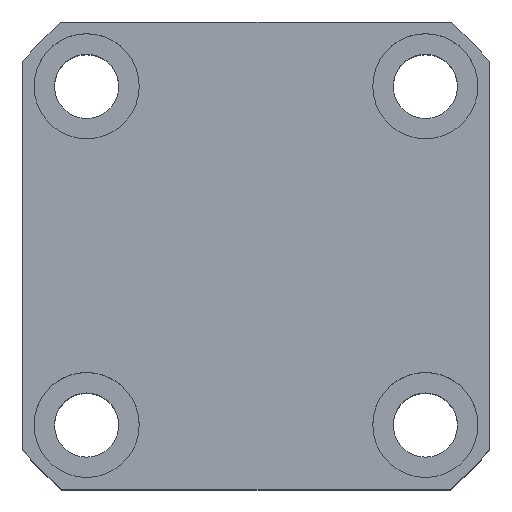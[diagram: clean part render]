
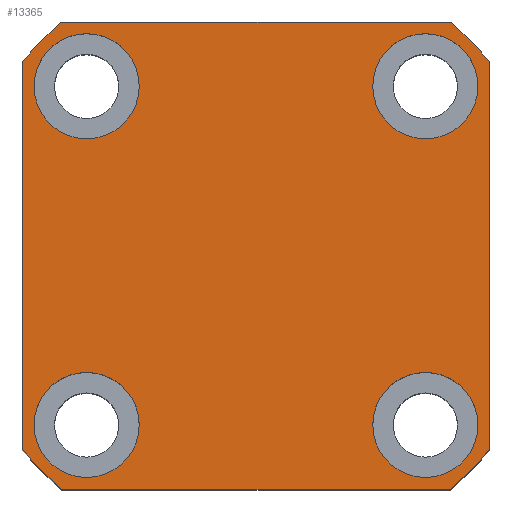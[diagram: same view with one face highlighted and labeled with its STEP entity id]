
A CAD part, top view. The second image highlights one B-rep face of the part: STEP entity #13365.
In plain terms, the highlighted planar face has unit normal (0, 0, 1).
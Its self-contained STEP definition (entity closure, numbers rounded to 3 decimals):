
#15 = VERTEX_POINT ( 'NONE', #8254 ) ;
#77 = DIRECTION ( 'NONE',  ( 0., 0., 1. ) ) ;
#80 = AXIS2_PLACEMENT_3D ( 'NONE', #11090, #12218, #13222 ) ;
#92 = ORIENTED_EDGE ( 'NONE', *, *, #4146, .F. ) ;
#241 = DIRECTION ( 'NONE',  ( 1., 0., 0. ) ) ;
#872 = EDGE_CURVE ( 'NONE', #1435, #8766, #11556, .T. ) ;
#1225 = CARTESIAN_POINT ( 'NONE',  ( 0., 0., 40. ) ) ;
#1378 = ORIENTED_EDGE ( 'NONE', *, *, #13598, .T. ) ;
#1417 = VERTEX_POINT ( 'NONE', #6374 ) ;
#1420 = CARTESIAN_POINT ( 'NONE',  ( 0., 0., 40. ) ) ;
#1435 = VERTEX_POINT ( 'NONE', #2924 ) ;
#1723 = ORIENTED_EDGE ( 'NONE', *, *, #9511, .F. ) ;
#1844 = DIRECTION ( 'NONE',  ( 1., 0., 0. ) ) ;
#1903 = CARTESIAN_POINT ( 'NONE',  ( 33.226, 40., 40. ) ) ;
#1916 = CARTESIAN_POINT ( 'NONE',  ( 38., 29., 40. ) ) ;
#2023 = EDGE_CURVE ( 'NONE', #1417, #5523, #7784, .T. ) ;
#2362 = CARTESIAN_POINT ( 'NONE',  ( -38., 29., 40. ) ) ;
#2409 = PLANE ( 'NONE',  #80 ) ;
#2785 = DIRECTION ( 'NONE',  ( 1., 0., 0. ) ) ;
#2870 = VERTEX_POINT ( 'NONE', #2362 ) ;
#2896 = CARTESIAN_POINT ( 'NONE',  ( -29., 29., 40. ) ) ;
#2924 = CARTESIAN_POINT ( 'NONE',  ( 20., 29., 40. ) ) ;
#3067 = FACE_BOUND ( 'NONE', #10568, .T. ) ;
#3091 = AXIS2_PLACEMENT_3D ( 'NONE', #13180, #3178, #7745 ) ;
#3131 = DIRECTION ( 'NONE',  ( 0., 0., 1. ) ) ;
#3178 = DIRECTION ( 'NONE',  ( 0., 0., 1. ) ) ;
#3180 = CARTESIAN_POINT ( 'NONE',  ( 29., -29., 40. ) ) ;
#3224 = FACE_OUTER_BOUND ( 'NONE', #11920, .T. ) ;
#3230 = DIRECTION ( 'NONE',  ( 1., 0., 0. ) ) ;
#3288 = CARTESIAN_POINT ( 'NONE',  ( 0., 0., 40. ) ) ;
#3337 = EDGE_CURVE ( 'NONE', #7605, #2870, #4333, .T. ) ;
#3361 = VERTEX_POINT ( 'NONE', #11477 ) ;
#3428 = DIRECTION ( 'NONE',  ( 0., 0., 1. ) ) ;
#3558 = CIRCLE ( 'NONE', #5240, 9. ) ;
#3599 = EDGE_LOOP ( 'NONE', ( #9632, #10328 ) ) ;
#3607 = DIRECTION ( 'NONE',  ( 0., 0., 1. ) ) ;
#3698 = VERTEX_POINT ( 'NONE', #9540 ) ;
#3872 = AXIS2_PLACEMENT_3D ( 'NONE', #1420, #10260, #5681 ) ;
#3951 = DIRECTION ( 'NONE',  ( -1., 0., 0. ) ) ;
#4146 = EDGE_CURVE ( 'NONE', #8766, #1435, #11911, .T. ) ;
#4192 = VERTEX_POINT ( 'NONE', #9657 ) ;
#4198 = VERTEX_POINT ( 'NONE', #5358 ) ;
#4212 = AXIS2_PLACEMENT_3D ( 'NONE', #1225, #3428, #6665 ) ;
#4235 = EDGE_CURVE ( 'NONE', #8566, #6158, #11091, .T. ) ;
#4256 = CARTESIAN_POINT ( 'NONE',  ( -20., 29., 40. ) ) ;
#4288 = AXIS2_PLACEMENT_3D ( 'NONE', #3180, #3131, #3230 ) ;
#4333 = CIRCLE ( 'NONE', #13834, 9. ) ;
#4361 = VERTEX_POINT ( 'NONE', #4404 ) ;
#4404 = CARTESIAN_POINT ( 'NONE',  ( 20., -29., 40. ) ) ;
#4491 = EDGE_CURVE ( 'NONE', #4198, #13884, #11431, .T. ) ;
#4582 = CARTESIAN_POINT ( 'NONE',  ( 33.226, -40., 40. ) ) ;
#4593 = FACE_BOUND ( 'NONE', #3599, .T. ) ;
#4704 = CARTESIAN_POINT ( 'NONE',  ( -29., 29., 40. ) ) ;
#5060 = CIRCLE ( 'NONE', #7614, 9. ) ;
#5087 = CIRCLE ( 'NONE', #3091, 52. ) ;
#5225 = CARTESIAN_POINT ( 'NONE',  ( 29., 29., 40. ) ) ;
#5240 = AXIS2_PLACEMENT_3D ( 'NONE', #12871, #6386, #12920 ) ;
#5358 = CARTESIAN_POINT ( 'NONE',  ( -33.226, -40., 40. ) ) ;
#5422 = CARTESIAN_POINT ( 'NONE',  ( -20., -29., 40. ) ) ;
#5447 = AXIS2_PLACEMENT_3D ( 'NONE', #6179, #7146, #10458 ) ;
#5523 = VERTEX_POINT ( 'NONE', #5422 ) ;
#5679 = DIRECTION ( 'NONE',  ( 0., 0., 1. ) ) ;
#5681 = DIRECTION ( 'NONE',  ( 1., 0., 0. ) ) ;
#5719 = DIRECTION ( 'NONE',  ( 0., 1., 0. ) ) ;
#5768 = AXIS2_PLACEMENT_3D ( 'NONE', #5225, #10477, #7578 ) ;
#5883 = ORIENTED_EDGE ( 'NONE', *, *, #13762, .F. ) ;
#6074 = EDGE_LOOP ( 'NONE', ( #5883, #1723 ) ) ;
#6158 = VERTEX_POINT ( 'NONE', #1903 ) ;
#6179 = CARTESIAN_POINT ( 'NONE',  ( 29., 29., 40. ) ) ;
#6234 = DIRECTION ( 'NONE',  ( 0., -1., 0. ) ) ;
#6318 = VECTOR ( 'NONE', #5719, 1000. ) ;
#6374 = CARTESIAN_POINT ( 'NONE',  ( -38., -29., 40. ) ) ;
#6386 = DIRECTION ( 'NONE',  ( 0., 0., 1. ) ) ;
#6504 = FACE_BOUND ( 'NONE', #11034, .T. ) ;
#6665 = DIRECTION ( 'NONE',  ( 1., 0., 0. ) ) ;
#6828 = CARTESIAN_POINT ( 'NONE',  ( -29., -29., 40. ) ) ;
#6843 = CIRCLE ( 'NONE', #3872, 52. ) ;
#6886 = CARTESIAN_POINT ( 'NONE',  ( -29., -29., 40. ) ) ;
#7146 = DIRECTION ( 'NONE',  ( 0., 0., 1. ) ) ;
#7194 = LINE ( 'NONE', #11557, #13675 ) ;
#7197 = ORIENTED_EDGE ( 'NONE', *, *, #11384, .T. ) ;
#7316 = VERTEX_POINT ( 'NONE', #8784 ) ;
#7578 = DIRECTION ( 'NONE',  ( 1., 0., 0. ) ) ;
#7605 = VERTEX_POINT ( 'NONE', #4256 ) ;
#7614 = AXIS2_PLACEMENT_3D ( 'NONE', #6886, #5679, #13480 ) ;
#7745 = DIRECTION ( 'NONE',  ( 1., 0., 0. ) ) ;
#7784 = CIRCLE ( 'NONE', #9790, 9. ) ;
#8254 = CARTESIAN_POINT ( 'NONE',  ( 38., -29., 40. ) ) ;
#8269 = CARTESIAN_POINT ( 'NONE',  ( -33.226, -40., 40. ) ) ;
#8309 = EDGE_CURVE ( 'NONE', #4192, #8566, #10765, .T. ) ;
#8462 = DIRECTION ( 'NONE',  ( 0., 0., 1. ) ) ;
#8546 = CIRCLE ( 'NONE', #4288, 9. ) ;
#8566 = VERTEX_POINT ( 'NONE', #10747 ) ;
#8766 = VERTEX_POINT ( 'NONE', #1916 ) ;
#8784 = CARTESIAN_POINT ( 'NONE',  ( -40., 33.226, 40. ) ) ;
#8823 = AXIS2_PLACEMENT_3D ( 'NONE', #2896, #8462, #1844 ) ;
#9332 = ORIENTED_EDGE ( 'NONE', *, *, #9771, .T. ) ;
#9394 = LINE ( 'NONE', #9474, #12758 ) ;
#9474 = CARTESIAN_POINT ( 'NONE',  ( -40., 33.226, 40. ) ) ;
#9511 = EDGE_CURVE ( 'NONE', #4361, #15, #8546, .T. ) ;
#9540 = CARTESIAN_POINT ( 'NONE',  ( -33.226, 40., 40. ) ) ;
#9632 = ORIENTED_EDGE ( 'NONE', *, *, #12107, .F. ) ;
#9657 = CARTESIAN_POINT ( 'NONE',  ( 40., -33.226, 40. ) ) ;
#9707 = ORIENTED_EDGE ( 'NONE', *, *, #4491, .T. ) ;
#9766 = ORIENTED_EDGE ( 'NONE', *, *, #3337, .F. ) ;
#9771 = EDGE_CURVE ( 'NONE', #3361, #4198, #5087, .T. ) ;
#9790 = AXIS2_PLACEMENT_3D ( 'NONE', #6828, #3607, #241 ) ;
#9940 = DIRECTION ( 'NONE',  ( 1., 0., 0. ) ) ;
#9962 = ORIENTED_EDGE ( 'NONE', *, *, #11752, .T. ) ;
#10226 = ORIENTED_EDGE ( 'NONE', *, *, #8309, .T. ) ;
#10260 = DIRECTION ( 'NONE',  ( 0., 0., 1. ) ) ;
#10328 = ORIENTED_EDGE ( 'NONE', *, *, #2023, .F. ) ;
#10458 = DIRECTION ( 'NONE',  ( 1., 0., 0. ) ) ;
#10477 = DIRECTION ( 'NONE',  ( 0., 0., 1. ) ) ;
#10568 = EDGE_LOOP ( 'NONE', ( #9766, #12148 ) ) ;
#10747 = CARTESIAN_POINT ( 'NONE',  ( 40., 33.226, 40. ) ) ;
#10765 = LINE ( 'NONE', #12269, #6318 ) ;
#11034 = EDGE_LOOP ( 'NONE', ( #92, #13867 ) ) ;
#11090 = CARTESIAN_POINT ( 'NONE',  ( 0., 0., 40. ) ) ;
#11091 = CIRCLE ( 'NONE', #14195, 52. ) ;
#11291 = FACE_BOUND ( 'NONE', #6074, .T. ) ;
#11384 = EDGE_CURVE ( 'NONE', #13884, #4192, #13804, .T. ) ;
#11431 = LINE ( 'NONE', #8269, #13120 ) ;
#11471 = ORIENTED_EDGE ( 'NONE', *, *, #12976, .T. ) ;
#11477 = CARTESIAN_POINT ( 'NONE',  ( -40., -33.226, 40. ) ) ;
#11556 = CIRCLE ( 'NONE', #5447, 9. ) ;
#11557 = CARTESIAN_POINT ( 'NONE',  ( -33.226, 40., 40. ) ) ;
#11752 = EDGE_CURVE ( 'NONE', #7316, #3361, #9394, .T. ) ;
#11911 = CIRCLE ( 'NONE', #5768, 9. ) ;
#11920 = EDGE_LOOP ( 'NONE', ( #11471, #9962, #9332, #9707, #7197, #10226, #12580, #1378 ) ) ;
#12107 = EDGE_CURVE ( 'NONE', #5523, #1417, #5060, .T. ) ;
#12148 = ORIENTED_EDGE ( 'NONE', *, *, #12776, .F. ) ;
#12218 = DIRECTION ( 'NONE',  ( 0., 0., 1. ) ) ;
#12269 = CARTESIAN_POINT ( 'NONE',  ( 40., 33.226, 40. ) ) ;
#12364 = DIRECTION ( 'NONE',  ( 0., 0., 1. ) ) ;
#12580 = ORIENTED_EDGE ( 'NONE', *, *, #4235, .T. ) ;
#12758 = VECTOR ( 'NONE', #6234, 1000. ) ;
#12776 = EDGE_CURVE ( 'NONE', #2870, #7605, #13850, .T. ) ;
#12871 = CARTESIAN_POINT ( 'NONE',  ( 29., -29., 40. ) ) ;
#12920 = DIRECTION ( 'NONE',  ( 1., 0., 0. ) ) ;
#12976 = EDGE_CURVE ( 'NONE', #3698, #7316, #6843, .T. ) ;
#13120 = VECTOR ( 'NONE', #2785, 1000. ) ;
#13180 = CARTESIAN_POINT ( 'NONE',  ( 0., 0., 40. ) ) ;
#13222 = DIRECTION ( 'NONE',  ( 1., 0., 0. ) ) ;
#13365 = ADVANCED_FACE ( 'NONE', ( #11291, #4593, #3067, #6504, #3224 ), #2409, .T. ) ;
#13469 = DIRECTION ( 'NONE',  ( 1., 0., 0. ) ) ;
#13480 = DIRECTION ( 'NONE',  ( 1., 0., 0. ) ) ;
#13598 = EDGE_CURVE ( 'NONE', #6158, #3698, #7194, .T. ) ;
#13675 = VECTOR ( 'NONE', #3951, 1000. ) ;
#13762 = EDGE_CURVE ( 'NONE', #15, #4361, #3558, .T. ) ;
#13804 = CIRCLE ( 'NONE', #4212, 52. ) ;
#13834 = AXIS2_PLACEMENT_3D ( 'NONE', #4704, #12364, #13469 ) ;
#13850 = CIRCLE ( 'NONE', #8823, 9. ) ;
#13867 = ORIENTED_EDGE ( 'NONE', *, *, #872, .F. ) ;
#13884 = VERTEX_POINT ( 'NONE', #4582 ) ;
#14195 = AXIS2_PLACEMENT_3D ( 'NONE', #3288, #77, #9940 ) ;
